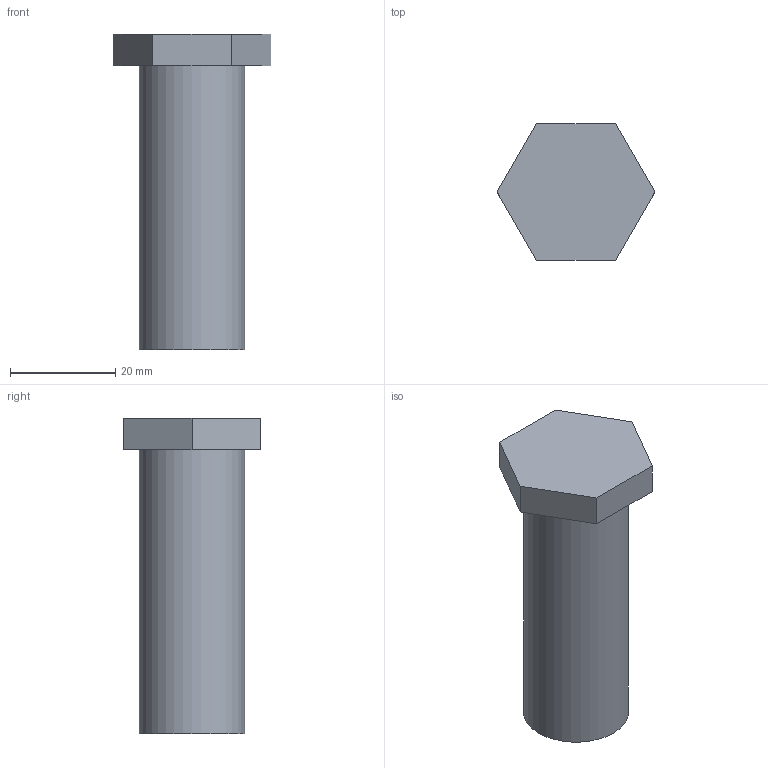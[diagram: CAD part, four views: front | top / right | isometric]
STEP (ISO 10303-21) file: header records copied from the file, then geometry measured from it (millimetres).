
FILE_DESCRIPTION(('Open CASCADE Model'),'2;1');
FILE_NAME('Open CASCADE Shape Model','2026-10-21T16:53:52',('Author'),( 'Open CASCADE'),'Open CASCADE STEP processor 7.9','Open CASCADE 7.9' ,'Unknown');
FILE_SCHEMA(('AUTOMOTIVE_DESIGN { 1 0 10303 214 1 1 1 1 }'));
Length unit declared in the file: millimetre
Products named in the file (1): Open CASCADE STEP translator 7.9 13
Bounding box: 30 x 25.98 x 60 mm (x, y, z)
Volume: 20472 mm3; surface area: 5102.1 mm2
Topology: 1 solids, 1 shells, 10 faces, 21 edges, 14 vertices
Faces by surface type: plane 9, cylinder 1
Full cylindrical faces by diameter (mm): 20 x1
Entity records: 550 total; most frequent: CARTESIAN_POINT 88, DIRECTION 87, LINE 59, VECTOR 59, ORIENTED_EDGE 42, PCURVE 42, DEFINITIONAL_REPRESENTATION 42, EDGE_CURVE 21
